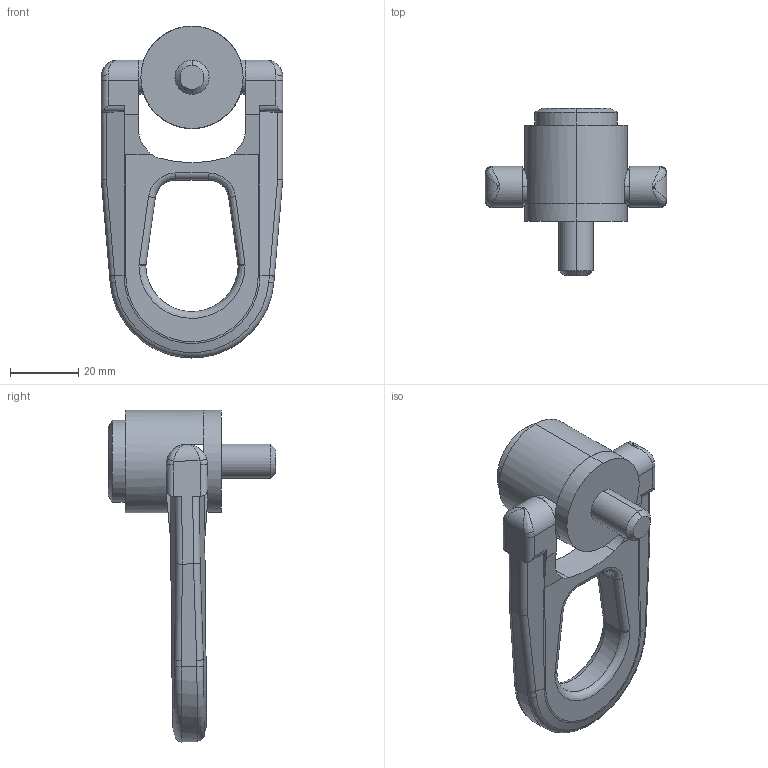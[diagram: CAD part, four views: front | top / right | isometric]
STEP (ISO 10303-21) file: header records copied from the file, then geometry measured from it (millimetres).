
FILE_DESCRIPTION (( 'STEP AP203' ), '1' );
FILE_NAME ('63200.W0010.step', '2013-12-13T15:21:21', ( 'User' ), ( '' ), 'SwSTEP 2.0', 'SolidWorks 2009', '' );
FILE_SCHEMA (( 'CONFIG_CONTROL_DESIGN' ));
Length unit declared in the file: millimetre
Products named in the file (3): Part2; Part1_63200.W0010; 63200.W0010
Assembly tree (2 placements, depth 2):
  63200.W0010
    Part1_63200.W0010
    Part2
Bounding box: 53 x 49 x 97.02 mm (x, y, z)
Volume: 44282.9 mm3; surface area: 14642.3 mm2
Topology: 2 solids, 2 shells, 137 faces, 343 edges, 211 vertices
Faces by surface type: plane 49, cylinder 46, bspline 28, cone 7, torus 7
Entity records: 6512 total; most frequent: CARTESIAN_POINT 3175, ORIENTED_EDGE 686, DIRECTION 583, EDGE_CURVE 343, AXIS2_PLACEMENT_3D 217, VERTEX_POINT 211, VECTOR 149, LINE 149
